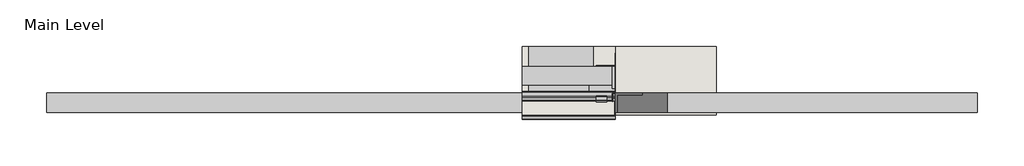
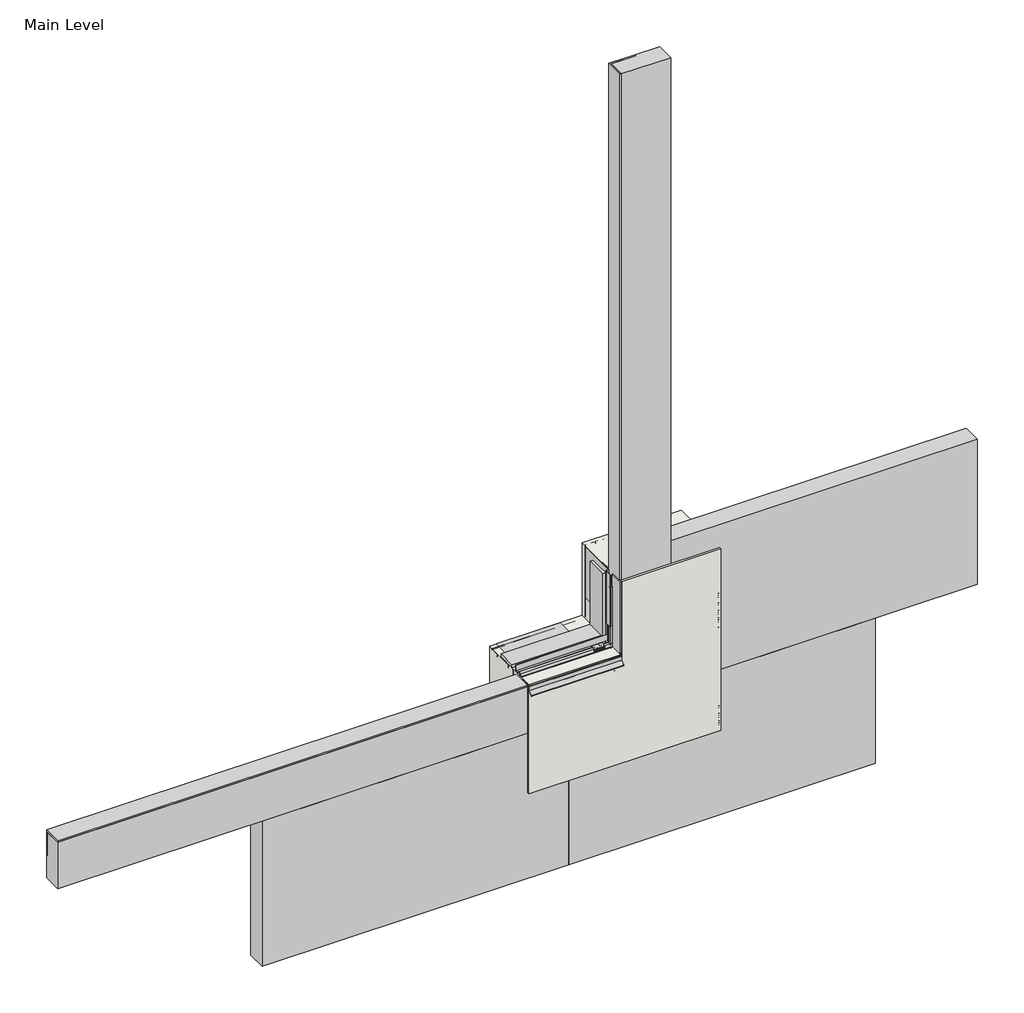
# One storey, incomplete: 22 proxies, 1 wall.
"""IFC4 building model written with IfcOpenShell, lengths in millimetres."""

from ifc_helpers import new_model, si_unit, frame, origin, place, context, project, spatial, polyline, outline, extrude, transform, mapped, element, save
from components import generic_models_31547c53, generic_models_d28646c3, generic_models_4f6b713c, generic_models_388356b2, generic_models_2850309d, generic_models_672f9cdd, generic_models_9b4c3a2c, generic_models_3fb7d6d8, proxy_ba8d72b4, proxy_a98eb32a, proxy_9e09e9f6, proxy_81afb05a, finish_coat_filler_finish_coat_filler_41560683, masonry_sill_masonry_sill_4dd9155f, masonry_sill1_masonry_sill_5b392f48, masonry_sill3_masonry_sill_9eb3d358, masonry_sill4_masonry_sill_9228ef93, proxy_a3fd9b0b, proxy_3a0ad636, proxy_0073da47, proxy_6f3203ff, window_header_window_header_abd4ef46, wood_blocking_5320d369

model = new_model("IFC4")

# Units and contexts
model_context = context("Model", 3, world=origin())
ifc_project = project(units=[si_unit("LENGTHUNIT", "METRE", prefix="MILLI")], contexts=[model_context])

# Site, building, storey
site = spatial("IfcSite", under=ifc_project)
building = spatial("IfcBuilding", under=site)
storey = spatial("IfcBuildingStorey", under=building, Name="Main Level", Elevation=0.0)

# Proxies
placement = place(None, origin())
generic_models_shape = generic_models_31547c53(model_context)
element("IfcBuildingElementProxy", 1, Name="Durabond Generic Model Sealant Vent : Durabond Generic Model Sealant Vent", ObjectType="Durabond Generic Model Sealant Vent : Durabond Generic Model Sealant Vent", at=placement, inside=storey, context=model_context, shape_type="MappedRepresentation", body=[
    mapped(generic_models_shape, transform((26800.7195523, 590.8476543, 464.646745), x_axis=(1.0, 0.0, 0.0), y_axis=(0.0, 0.08715574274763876, -0.9961946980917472), z_axis=(0.0, 0.9961946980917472, 0.08715574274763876))),
])
generic_models_2_shape = generic_models_d28646c3(model_context)
element("IfcBuildingElementProxy", 2, Name="CRAi Generic Model Line Based Drip Deflector : CRAi Generic Model Line Based Drip Deflector", ObjectType="CRAi Generic Model Line Based Drip Deflector : CRAi Generic Model Line Based Drip Deflector", at=placement, inside=storey, context=model_context, shape_type="MappedRepresentation", body=[
    mapped(generic_models_2_shape, transform((26855.8851773, 535.1829375, 451.8088934), x_axis=(0.0, 0.996194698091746, 0.08715574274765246), y_axis=(-1.0, 0.0, 0.0), z_axis=(0.0, -0.0871557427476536, 0.996194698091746))),
])
generic_models_3_shape = generic_models_4f6b713c(model_context)
generic_models_4_shape = generic_models_388356b2(model_context)
generic_models_5_shape = generic_models_2850309d(model_context)
element("IfcBuildingElementProxy", 3, Name="CRAi Generic Model Mesh Piece Face Based : CRAi Generic Model Mesh Piece Face Based", ObjectType="CRAi Generic Model Mesh Piece Face Based : CRAi Generic Model Mesh Piece Face Based", at=placement, inside=storey, context=model_context, shape_type="MappedRepresentation", body=[
    mapped(generic_models_3_shape, transform((27052.7351773, 541.9066297, 504.9011686), x_axis=(-1.0, 0.0, 0.0), y_axis=(0.0, 0.0, -1.0), z_axis=(0.0, -1.0, 0.0))),
    mapped(generic_models_4_shape, transform((27052.7351773, 541.9066297, 504.9011686), x_axis=(-1.0, 0.0, 0.0), y_axis=(0.0, 0.0, -1.0), z_axis=(0.0, -1.0, 0.0))),
    mapped(generic_models_5_shape, transform((27052.7351773, 541.9066297, 504.9011686), x_axis=(-1.0, 0.0, 0.0), y_axis=(0.0, 0.0, -1.0), z_axis=(0.0, -1.0, 0.0))),
])
generic_models_6_shape = generic_models_672f9cdd(model_context)
generic_models_7_shape = generic_models_9b4c3a2c(model_context)
generic_models_8_shape = generic_models_3fb7d6d8(model_context)
element("IfcBuildingElementProxy", 4, Name="CRAi Generic Model Mesh Piece Face Based : CRAi Generic Model Mesh Piece Face Based", ObjectType="CRAi Generic Model Mesh Piece Face Based : CRAi Generic Model Mesh Piece Face Based", at=placement, inside=storey, context=model_context, shape_type="MappedRepresentation", body=[
    mapped(generic_models_6_shape, transform((26990.8226773, 541.9066297, 50.8), x_axis=(-1.0, 0.0, 0.0), y_axis=(0.0, 0.0, -1.0), z_axis=(0.0, -1.0, 0.0))),
    mapped(generic_models_7_shape, transform((26990.8226773, 541.9066297, 50.8), x_axis=(-1.0, 0.0, 0.0), y_axis=(0.0, 0.0, -1.0), z_axis=(0.0, -1.0, 0.0))),
    mapped(generic_models_8_shape, transform((26990.8226773, 541.9066297, 50.8), x_axis=(-1.0, 0.0, 0.0), y_axis=(0.0, 0.0, -1.0), z_axis=(0.0, -1.0, 0.0))),
])
proxy_shape = proxy_ba8d72b4(model_context)
element("IfcBuildingElementProxy", 5, Name="Durabond Generic Model Equalite Select Boundary Board : 3\"", ObjectType="Durabond Generic Model Equalite Select Boundary Board : 3\"", at=placement, inside=storey, context=model_context, shape_type="MappedRepresentation", body=[
    mapped(proxy_shape, transform((25839.8851773, 624.4566297, 349.375778), x_axis=(-1.0, 0.0, 0.0), y_axis=(0.0, 0.0, -1.0), z_axis=(0.0, -1.0, 0.0))),
])
proxy_2_shape = proxy_a98eb32a(model_context)
element("IfcBuildingElementProxy", 6, Name="Durabond Generic Model Equalite Select Boundary Board : 3\"", ObjectType="Durabond Generic Model Equalite Select Boundary Board : 3\"", at=placement, inside=storey, context=model_context, shape_type="MappedRepresentation", body=[
    mapped(proxy_2_shape, transform((26957.4851773, 624.4566297, 1670.175778), x_axis=(0.0, 0.0, 1.0), y_axis=(-1.0, 0.0, 0.0), z_axis=(0.0, -1.0, 0.0))),
])
proxy_3_shape = proxy_9e09e9f6(model_context)
element("IfcBuildingElementProxy", 7, Name="Durabond Generic Model Equalite Insulation Board : 3\"", ObjectType="Durabond Generic Model Equalite Insulation Board : 3\"", at=placement, inside=storey, context=model_context, shape_type="MappedRepresentation", body=[
    mapped(proxy_3_shape, transform((27262.2851773, 624.4566297, -57.024222), x_axis=(1.0, 0.0, 0.0), y_axis=(0.0, 0.0, 1.0), z_axis=(0.0, -1.0, 0.0))),
])
element("IfcBuildingElementProxy", 8, Name="Durabond Generic Model Equalite Insulation Board : 3\"", ObjectType="Durabond Generic Model Equalite Insulation Board : 3\"", at=placement, inside=storey, context=model_context, shape_type="MappedRepresentation", body=[
    mapped(proxy_3_shape, transform((27668.6851773, 624.4566297, 552.575778), x_axis=(1.0, 0.0, 0.0), y_axis=(0.0, 0.0, 1.0), z_axis=(0.0, -1.0, 0.0))),
])
proxy_4_shape = proxy_81afb05a(model_context)
element("IfcBuildingElementProxy", 9, Name="Durabond Generic Model Equalite Insulation Board : 3\"", ObjectType="Durabond Generic Model Equalite Insulation Board : 3\"", at=placement, inside=storey, context=model_context, shape_type="MappedRepresentation", body=[
    mapped(proxy_4_shape, transform((26043.0851773, 624.4566297, -57.024222), x_axis=(-1.0, 0.0, 0.0), y_axis=(0.0, 0.0, -1.0), z_axis=(0.0, -1.0, 0.0))),
])
finish_coat_filler_finish_coat_filler_shape = finish_coat_filler_finish_coat_filler_41560683(model_context)
element("IfcBuildingElementProxy", 10, Name="Finish Coat Filler : Finish Coat Filler", ObjectType="Finish Coat Filler : Finish Coat Filler", at=placement, inside=storey, context=model_context, shape_type="MappedRepresentation", body=[
    mapped(finish_coat_filler_finish_coat_filler_shape, transform((0.0, 0.0, 0.0), x_axis=(1.0, 0.0, 0.0), y_axis=(0.0, 1.0, 0.0), z_axis=(0.0, 0.0, 1.0))),
])
masonry_sill_masonry_sill_shape = masonry_sill_masonry_sill_4dd9155f(model_context)
element("IfcBuildingElementProxy", 11, Name="Masonry Sill : Masonry Sill", ObjectType="Masonry Sill : Masonry Sill", at=placement, inside=storey, context=model_context, shape_type="MappedRepresentation", body=[
    mapped(masonry_sill_masonry_sill_shape, transform((0.0, 0.0, 0.0), x_axis=(1.0, 0.0, 0.0), y_axis=(0.0, 1.0, 0.0), z_axis=(0.0, 0.0, 1.0))),
])
masonry_sill1_masonry_sill_shape = masonry_sill1_masonry_sill_5b392f48(model_context)
element("IfcBuildingElementProxy", 12, Name="Masonry Sill1 : Masonry Sill", ObjectType="Masonry Sill1 : Masonry Sill", at=placement, inside=storey, context=model_context, shape_type="MappedRepresentation", body=[
    mapped(masonry_sill1_masonry_sill_shape, transform((0.0, 0.0, 0.0), x_axis=(1.0, 0.0, 0.0), y_axis=(0.0, 1.0, 0.0), z_axis=(0.0, 0.0, 1.0))),
])
masonry_sill3_masonry_sill_shape = masonry_sill3_masonry_sill_9eb3d358(model_context)
element("IfcBuildingElementProxy", 13, Name="Masonry Sill3 : Masonry Sill", ObjectType="Masonry Sill3 : Masonry Sill", at=placement, inside=storey, context=model_context, shape_type="MappedRepresentation", body=[
    mapped(masonry_sill3_masonry_sill_shape, transform((0.0, 0.0, 0.0), x_axis=(1.0, 0.0, 0.0), y_axis=(0.0, 1.0, 0.0), z_axis=(0.0, 0.0, 1.0))),
])
masonry_sill4_masonry_sill_shape = masonry_sill4_masonry_sill_9228ef93(model_context)
element("IfcBuildingElementProxy", 14, Name="Masonry Sill4 : Masonry Sill", ObjectType="Masonry Sill4 : Masonry Sill", at=placement, inside=storey, context=model_context, shape_type="MappedRepresentation", body=[
    mapped(masonry_sill4_masonry_sill_shape, transform((0.0, 0.0, -101.6), x_axis=(1.0, 0.0, 0.0), y_axis=(0.0, 1.0, 0.0), z_axis=(0.0, 0.0, 1.0))),
])
proxy_5_shape = proxy_a3fd9b0b(model_context)
element("IfcBuildingElementProxy", 15, Name="CRAi Generic Model Metal Stud : Metal Framing Stud - 1\" x 3.5\"", ObjectType="CRAi Generic Model Metal Stud : Metal Framing Stud - 1\" x 3.5\"", at=placement, inside=storey, context=model_context, shape_type="MappedRepresentation", body=[
    mapped(proxy_5_shape, transform((26876.5226773, 719.7066297, 0.0), x_axis=(1.0, 0.0, 0.0), y_axis=(0.0, 1.0, 0.0), z_axis=(0.0, 0.0, 1.0))),
])
proxy_6_shape = proxy_3a0ad636(model_context)
element("IfcBuildingElementProxy", 16, Name="CRAi Generic Model Metal Stud : Metal Framing Stud - 1\" x 3.5\"", ObjectType="CRAi Generic Model Metal Stud : Metal Framing Stud - 1\" x 3.5\"", at=placement, inside=storey, context=model_context, shape_type="MappedRepresentation", body=[
    mapped(proxy_6_shape, transform((26876.5226773, 719.7066297, 0.0), x_axis=(1.0, 0.0, 0.0), y_axis=(0.0, 1.0, 0.0), z_axis=(0.0, 0.0, 1.0))),
])
proxy_7_shape = proxy_0073da47(model_context)
element("IfcBuildingElementProxy", 17, Name="CRAi Generic Model Metal Stud : Metal Framing Stud - 1\" x 3.5\"", ObjectType="CRAi Generic Model Metal Stud : Metal Framing Stud - 1\" x 3.5\"", at=placement, inside=storey, context=model_context, shape_type="MappedRepresentation", body=[
    mapped(proxy_7_shape, transform((26914.6226773, 719.7066297, 0.0), x_axis=(-1.0, 0.0, 0.0), y_axis=(0.0, -1.0, 0.0), z_axis=(0.0, 0.0, 1.0))),
])
proxy_8_shape = proxy_6f3203ff(model_context)
element("IfcBuildingElementProxy", 18, Name="CRAi Generic Model Metal Stud : Metal Framing Stud - 1\" x 3.5\"", ObjectType="CRAi Generic Model Metal Stud : Metal Framing Stud - 1\" x 3.5\"", at=placement, inside=storey, context=model_context, shape_type="MappedRepresentation", body=[
    mapped(proxy_8_shape, transform((26508.2226773, 719.7066297, 0.0), x_axis=(-1.0, 0.0, 0.0), y_axis=(0.0, -1.0, 0.0), z_axis=(0.0, 0.0, 1.0))),
])
window_header_window_header_shape = window_header_window_header_abd4ef46(model_context)
element("IfcBuildingElementProxy", 19, Name="Window Header : Window Header", ObjectType="Window Header : Window Header", at=placement, inside=storey, context=model_context, shape_type="MappedRepresentation", body=[
    mapped(window_header_window_header_shape, transform((0.0, -6.35, 0.0), x_axis=(1.0, 0.0, 0.0), y_axis=(0.0, 1.0, 0.0), z_axis=(0.0, 0.0, 1.0))),
])
wood_blocking_shape = wood_blocking_5320d369(model_context)
element("IfcBuildingElementProxy", 20, Name="CRAi Generic Model Line Based Metal Framing Track : Wood Blocking", ObjectType="CRAi Generic Model Line Based Metal Framing Track : Wood Blocking", at=placement, inside=storey, context=model_context, shape_type="MappedRepresentation", body=[
    mapped(wood_blocking_shape, transform((26489.1726773, 643.5066297, 304.8), x_axis=(1.0, 0.0, 0.0), y_axis=(0.0, 1.0, 0.0), z_axis=(0.0, 0.0, 1.0))),
])
element("IfcBuildingElementProxy", 21, Name="CRAi Generic Model Line Based Metal Framing Track : Wood Blocking", ObjectType="CRAi Generic Model Line Based Metal Framing Track : Wood Blocking", at=placement, inside=storey, context=model_context, shape_type="MappedRepresentation", body=[
    mapped(wood_blocking_shape, transform((26489.1726773, 795.907101, 457.2), x_axis=(1.0, 0.0, 0.0), y_axis=(0.0, -1.0, 0.0), z_axis=(0.0, 0.0, -1.0))),
])
element("IfcBuildingElementProxy", 22, Name="CRAi Generic Model Line Based Metal Framing Track : Wood Blocking", ObjectType="CRAi Generic Model Line Based Metal Framing Track : Wood Blocking", at=placement, inside=storey, context=model_context, shape_type="MappedRepresentation", body=[
    mapped(wood_blocking_shape, transform((26489.1726773, 795.9066297, 304.8), x_axis=(1.0, 0.0, 0.0), y_axis=(0.0, -1.0, 0.0), z_axis=(0.0, 0.0, -1.0))),
])

# Wall
element("IfcWall", 23, ObjectType="189mm (7.5”) EIFS Field Applied on Mtl. Stud Layer - 50mm Grooved Insulation Board Metal Stud Wall(AirStop) 2", at=placement, inside=storey, context=model_context, shape_type="SweptSolid", body=[
    extrude(outline(polyline([(0.0, 26489.1726773), (0.0, 27251.1726773), (762.0, 27251.1726773), (762.0, 26857.4726773), (457.2, 26857.4726773), (457.2, 26489.1726773), (0.0, 26489.1726773)])), frame((0.0, 538.7316297, 0.0), z_axis=(0.0, 1.0, 0.0), x_axis=(0.0, 0.0, 1.0)), (0.0, 0.0, 1.0), 269.875),
])

save(model, "model.ifc")
